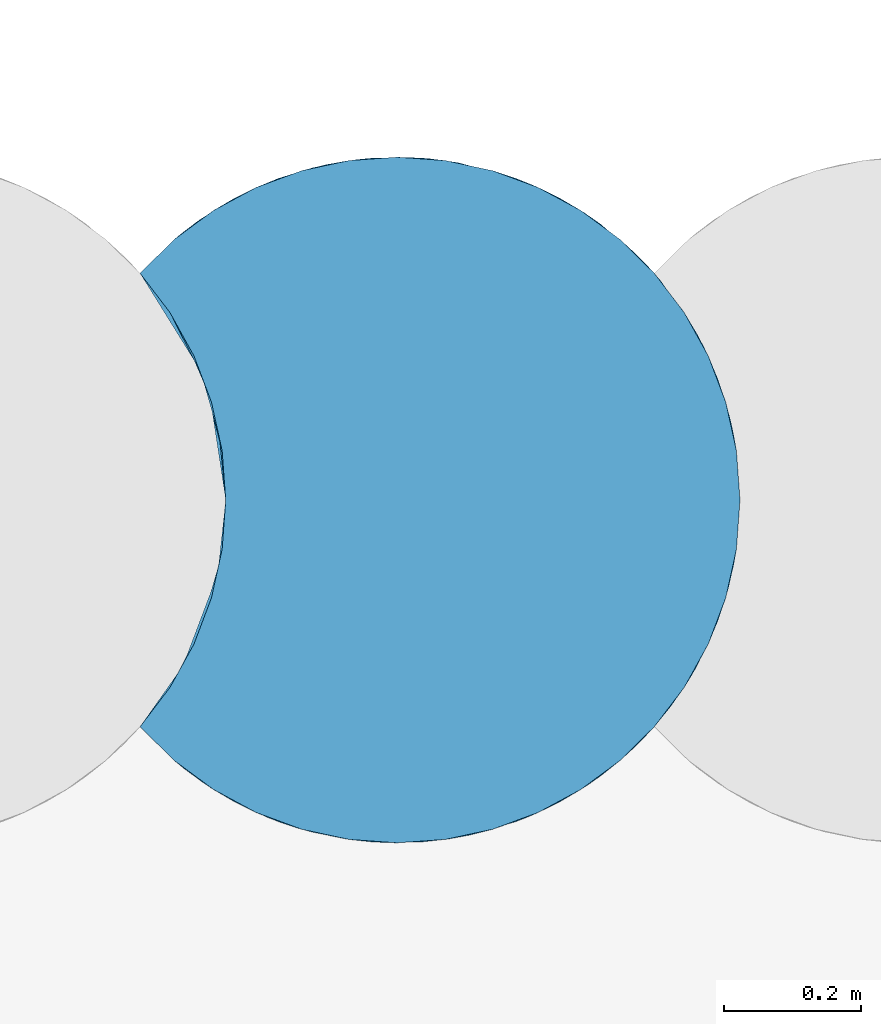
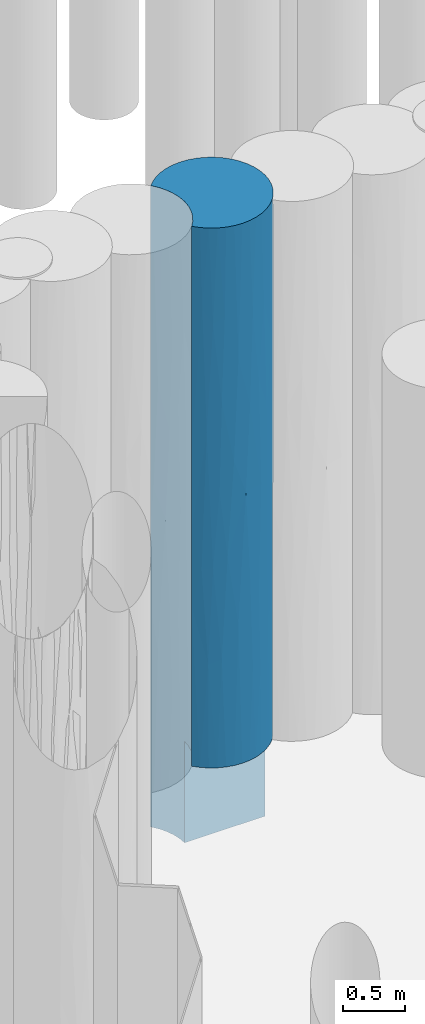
# One storey, part 83 of 104: 1 pile.
"""IFC2X3 building model written with IfcOpenShell, lengths in millimetres."""

from ifc_helpers import new_model, entity, si_unit, converted_unit, derived_unit, direction, frame, origin, place, context, subcontext, project, spatial, faceted_brep, source, transform, mapped, material, element, save


model = new_model("IFC2X3")

# Units and contexts
model_context = context("Model", 3, precision=0.01, world=origin(), true_north=direction((6.12303176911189e-17, 1.0)))
body_context = subcontext(model_context, "Body", "Model", "MODEL_VIEW")
ifc_project = project(units=[si_unit("LENGTHUNIT", "METRE", prefix="MILLI"), si_unit("AREAUNIT", "SQUARE_METRE", prefix="MILLI"), si_unit("VOLUMEUNIT", "CUBIC_METRE"), converted_unit("PLANEANGLEUNIT", "DEGREE", entity("IfcRatioMeasure", 0.0174532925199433), si_unit("PLANEANGLEUNIT", "RADIAN"), dimensions=[0, 0, 0, 0, 0, 0, 0]), si_unit("MASSUNIT", "GRAM", prefix="KILO"), derived_unit("MASSDENSITYUNIT", [(si_unit("MASSUNIT", "GRAM", prefix="KILO"), 1), (si_unit("LENGTHUNIT", "METRE"), -3)]), derived_unit("MOMENTOFINERTIAUNIT", [(si_unit("LENGTHUNIT", "METRE"), 4)]), si_unit("TIMEUNIT", "SECOND"), si_unit("FREQUENCYUNIT", "HERTZ"), si_unit("THERMODYNAMICTEMPERATUREUNIT", "DEGREE_CELSIUS"), derived_unit("THERMALTRANSMITTANCEUNIT", [(si_unit("MASSUNIT", "GRAM", prefix="KILO"), 1), (si_unit("THERMODYNAMICTEMPERATUREUNIT", "KELVIN"), -1), (si_unit("TIMEUNIT", "SECOND"), -3)]), derived_unit("VOLUMETRICFLOWRATEUNIT", [(si_unit("LENGTHUNIT", "METRE"), 3), (si_unit("TIMEUNIT", "SECOND"), -1)]), si_unit("ELECTRICCURRENTUNIT", "AMPERE"), si_unit("ELECTRICVOLTAGEUNIT", "VOLT"), si_unit("POWERUNIT", "WATT"), si_unit("FORCEUNIT", "NEWTON", prefix="KILO"), si_unit("ILLUMINANCEUNIT", "LUX"), si_unit("LUMINOUSFLUXUNIT", "LUMEN"), si_unit("LUMINOUSINTENSITYUNIT", "CANDELA"), derived_unit("USERDEFINED", [(si_unit("MASSUNIT", "GRAM", prefix="KILO"), -1), (si_unit("LENGTHUNIT", "METRE"), -2), (si_unit("TIMEUNIT", "SECOND"), 3), (si_unit("LUMINOUSFLUXUNIT", "LUMEN"), 1)]), derived_unit("LINEARVELOCITYUNIT", [(si_unit("LENGTHUNIT", "METRE"), 1), (si_unit("TIMEUNIT", "SECOND"), -1)]), si_unit("PRESSUREUNIT", "PASCAL"), derived_unit("USERDEFINED", [(si_unit("LENGTHUNIT", "METRE"), -2), (si_unit("MASSUNIT", "GRAM", prefix="KILO"), 1), (si_unit("TIMEUNIT", "SECOND"), -2)]), derived_unit("LINEARFORCEUNIT", [(si_unit("MASSUNIT", "GRAM", prefix="KILO"), 1), (si_unit("LENGTHUNIT", "METRE"), 1), (si_unit("TIMEUNIT", "SECOND"), -2), (si_unit("LENGTHUNIT", "METRE"), -1)]), derived_unit("PLANARFORCEUNIT", [(si_unit("MASSUNIT", "GRAM", prefix="KILO"), 1), (si_unit("LENGTHUNIT", "METRE"), 1), (si_unit("TIMEUNIT", "SECOND"), -2), (si_unit("LENGTHUNIT", "METRE"), -2)])], contexts=[model_context])

# Site, building, storey
site_placement = place(None, origin())
site = spatial("IfcSite", under=ifc_project, at=site_placement, Name="Theater aan de Parade", CompositionType="ELEMENT")
building_placement = place(site_placement, origin())
building = spatial("IfcBuilding", under=site, at=building_placement, Name="Theater aan de Parade", CompositionType="ELEMENT")
storey_placement = place(building_placement, frame((0.0, 0.0, -5520.0)))
storey = spatial("IfcBuildingStorey", under=building, at=storey_placement, Name="-2 kelder", CompositionType="ELEMENT", Elevation=-5520.0)

# Pile
ifc_material = material(Name="00_PBT_MAT_grout")
shared_shape = source(origin(), body_context, "Body", "Brep", [
    faceted_brep([(447.024567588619, 996.610134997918, 0.0), (516.050365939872, 981.753867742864, 0.0), (582.295809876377, 957.322481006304, 0.0), (644.440261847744, 923.802640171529, 0.0), (701.244632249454, 881.862011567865, 0.0), (751.564698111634, 832.344511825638, 0.0), (795.307447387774, 774.871898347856, 0.0), (830.3061049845, 711.705910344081, 0.0), (855.841245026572, 644.155075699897, 0.0), (871.379164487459, 573.629291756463, 0.0), (876.595272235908, 501.595272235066, 0.0), (126.595272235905, 501.595272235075, 0.0), (121.380912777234, 573.617282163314, 0.0), (105.846592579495, 644.137097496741, 0.0), (80.3163177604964, 711.683855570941, 0.0), (45.3225844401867, 774.848704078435, 0.0), (1.59527223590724, 832.314186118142, 0.0), (51.9353252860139, 881.852972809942, 0.0), (108.741467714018, 923.797047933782, 0.0), (170.888616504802, 957.319719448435, 0.0), (237.136331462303, 981.75275040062, 0.0), (306.163620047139, 996.609799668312, 0.0), (376.594352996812, 1001.59527223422, 0.0), (794.756123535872, 775.714776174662, 1228.81272915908), (549.604882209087, 970.708984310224, 4489.81932615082), (520.051793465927, 980.573587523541, 5382.91341902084), (613.960467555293, 941.660908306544, 5318.51941458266), (876.595272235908, 501.595272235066, 1000.0), (871.379164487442, 573.629291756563, 6320.0), (876.595272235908, 501.59527223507, 6320.0), (876.595272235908, 501.595272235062, 5539.2311470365), (876.595272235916, 501.59527223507, 4758.46227378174), (520.051793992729, 980.573587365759, 937.086578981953), (844.294832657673, 678.392108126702, 1164.3633246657), (271.387390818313, 990.401268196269, 1001.48399115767), (613.960468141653, 941.660907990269, 1001.48058281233), (465.503122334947, 993.627175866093, 3572.95728768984), (591.95749686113, 952.837016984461, 2592.25031757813), (425.191522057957, 999.228073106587, 2413.69991540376), (51.9353254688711, 881.85297296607, 6320.0), (108.741467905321, 923.797048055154, 6320.0), (62.3331531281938, 890.490271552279, 5148.84671821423), (727.290636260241, 857.983770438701, 1464.86322289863), (813.948631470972, 743.92157944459, 2176.75510940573), (411.897565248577, 1000.34746331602, 1347.03164863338), (170.419670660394, 957.107754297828, 3160.0), (89.8360826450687, 911.191618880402, 2088.29114741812), (79.5245862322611, 903.775589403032, 3056.90562258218), (844.294831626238, 678.39211085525, 4334.71686722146), (813.948631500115, 743.921579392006, 5244.04250825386), (856.701469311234, 641.230652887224, 5294.90075363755), (317.324708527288, 998.069843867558, 2005.67899400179), (139.222527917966, 941.65683639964, 5318.51289021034), (271.387391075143, 990.401268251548, 5318.5160089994), (203.580632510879, 970.707129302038, 4489.8213672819), (855.841245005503, 644.155075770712, 6320.0), (830.306104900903, 711.705910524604, 6320.0), (411.897565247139, 1000.34746331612, 4972.96835150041), (376.594352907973, 1001.59527223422, 6320.0), (447.024567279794, 996.610135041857, 6320.0), (876.595272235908, 501.595272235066, 2098.46227378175), (869.333230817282, 586.502893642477, 1549.23112851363), (646.439422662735, 922.52773057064, 4378.31323819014), (861.144910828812, 624.930781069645, 2647.6933898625), (139.222527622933, 941.656836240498, 1001.48711016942), (795.307447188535, 774.871898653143, 6320.0), (576.321270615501, 959.972328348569, 3449.19162586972), (751.585178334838, 832.325631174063, 6320.0), (727.290636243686, 857.983770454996, 5537.32646657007), (701.244631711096, 881.862012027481, 6320.0), (203.580632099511, 970.707129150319, 1830.17863376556), (644.44026119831, 923.80264058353, 6320.0), (341.290873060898, 1000.34731423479, 3160.0), (253.934917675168, 986.316261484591, 2717.65300360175), (650.019734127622, 920.21092368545, 1972.39054739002), (549.604882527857, 970.70898419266, 1830.18066998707), (62.3331529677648, 890.490271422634, 1171.15328050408), (876.595272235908, 501.595272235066, 3196.92454756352), (876.595272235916, 501.595272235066, 2561.5377059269), (793.00101597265, 778.373625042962, 4276.18344993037), (864.687323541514, 610.067155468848, 3612.80310461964), (727.290635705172, 857.983770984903, 4689.9541594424), (1.59527223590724, 832.314186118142, 5539.23141195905), (1.59527223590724, 832.314186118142, 4758.45763153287), (1.59527223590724, 832.314186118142, 780.768588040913), (1.59527223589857, 832.314186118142, 1561.53717608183), (582.295809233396, 957.32248129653, 6320.0), (516.050365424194, 981.753867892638, 6320.0), (1.59527223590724, 832.314186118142, 6320.0), (170.888616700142, 957.319719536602, 6320.0), (760.967406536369, 821.373417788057, 2912.00306888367), (306.163620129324, 996.609799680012, 6320.0), (237.136331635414, 981.752750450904, 6320.0), (317.324708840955, 998.069843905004, 4314.32100595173), (824.270181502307, 724.277053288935, 3295.17429052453), (740.362063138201, 844.631308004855, 3786.33735840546), (89.8360828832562, 911.191619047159, 4231.70885066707), (1.59527223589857, 832.314186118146, 2342.30657834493), (1.59527223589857, 832.314186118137, 3123.07435216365), (1.59527223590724, 832.314186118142, 3940.76599184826), (1.5952722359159, 832.314186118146, 4721.53800578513), (868.31868141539, 592.193775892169, 4573.56444361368), (673.583725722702, 903.836317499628, 3160.0), (876.595272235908, 501.595272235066, 4123.07541185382), (1.5952722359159, 832.314186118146, 3922.30672178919), (203.582286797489, 32.4828050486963, 2063.74645387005), (104.799222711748, 81.9205083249, 2017.24056259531), (170.888936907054, 45.8706803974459, 1000.0), (306.169463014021, 6.57991348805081, 1000.0), (237.139379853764, 21.4369086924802, 1000.0), (108.739323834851, 79.3948566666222, 1000.0), (844.298622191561, 324.808461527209, 1964.84509720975), (855.843884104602, 359.044340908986, 1000.0), (871.380005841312, 429.567032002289, 1000.0), (51.9315440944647, 121.340800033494, 1000.0), (249.149636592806, 18.1104121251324, 3064.60351294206), (341.298032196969, 2.84272352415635, 2389.43952600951), (481.811471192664, 12.7910665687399, 1910.77219920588), (447.035194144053, 6.58192150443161, 1000.0), (516.062532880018, 21.4402106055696, 1000.0), (795.307447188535, 228.318645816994, 6320.0), (804.969430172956, 243.727901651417, 5501.66350533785), (830.306104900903, 291.484633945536, 6320.0), (376.602802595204, 1.59527229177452, 1000.0), (727.301618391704, 145.217581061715, 3659.99144225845), (673.596082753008, 99.363350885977, 2270.79748972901), (774.493590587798, 198.813290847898, 2390.35009709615), (481.80003106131, 12.7886041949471, 5409.25641590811), (453.100427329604, 7.48297604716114, 4513.69340896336), (549.604883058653, 32.4815604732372, 4692.84905904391), (226.910865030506, 24.5265368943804, 5446.00106667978), (237.136331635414, 21.4377940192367, 6320.0), (170.888616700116, 45.8708249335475, 6320.0), (203.580632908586, 32.4834150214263, 4596.17974534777), (186.509828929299, 39.1371398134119, 3719.1308989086), (302.739707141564, 7.07999895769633, 3999.49399943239), (567.354968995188, 39.4148549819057, 1816.1274248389), (549.617476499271, 32.4862051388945, 2627.20563650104), (582.308728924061, 45.8738949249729, 1000.0), (613.960468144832, 61.5296364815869, 5409.25483365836), (139.222528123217, 61.5337079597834, 5366.36140196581), (94.9848091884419, 88.4420959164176, 4306.20718492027), (66.1639001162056, 109.635627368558, 5518.62855545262), (1.59527223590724, 170.876358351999, 3342.30506081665), (1.5952722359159, 170.876358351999, 4123.07341442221), (701.244631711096, 121.328532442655, 6320.0), (727.290636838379, 145.206774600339, 5009.81933080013), (751.585178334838, 170.864913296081, 6320.0), (51.9353254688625, 121.337571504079, 6320.0), (1.59527223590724, 170.876358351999, 6320.0), (1.59527223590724, 170.876358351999, 5539.23164639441), (108.741467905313, 79.3934964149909, 6320.0), (830.311221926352, 291.49568395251, 1000.0), (306.163620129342, 6.58074479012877, 6320.0), (868.398757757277, 411.432465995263, 5503.47129762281), (859.976701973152, 373.757901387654, 4296.85621176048), (376.594352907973, 1.5952722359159, 6320.0), (341.290874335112, 2.8432301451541, 4999.47557712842), (751.595272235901, 170.87635835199, 1000.0), (795.315189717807, 228.330509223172, 1000.0), (516.050365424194, 21.4366765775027, 6320.0), (447.024567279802, 6.58040942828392, 6320.0), (844.29862220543, 324.808461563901, 2985.23218810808), (453.112845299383, 7.48489892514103, 2806.34173780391), (1.59527223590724, 170.876358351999, 2561.5367072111), (1.59527223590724, 170.876358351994, 1780.7688531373), (1.59527223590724, 170.876358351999, 1000.0), (644.453065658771, 79.3960272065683, 1000.0), (701.256460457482, 121.33863144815, 1000.0), (644.440261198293, 79.3879038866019, 6320.0), (868.741967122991, 413.325058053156, 3421.75623803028), (411.907133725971, 2.84375851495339, 3659.99398159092), (801.333356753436, 237.781778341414, 3614.51908154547), (866.89834836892, 403.600917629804, 2475.03864258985), (139.221565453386, 61.5342272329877, 2966.67369440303), (855.841245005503, 359.035468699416, 6320.0), (844.294832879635, 324.798436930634, 5400.40783371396), (577.1715610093, 43.589647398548, 3660.04365239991), (656.87991123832, 87.5415062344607, 3205.14514333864), (651.229971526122, 83.7726041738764, 4395.20285150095), (582.295809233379, 45.868063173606, 6320.0), (813.94863232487, 259.26896656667, 4682.88089299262), (871.379164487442, 429.561252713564, 6320.0), (61.5885442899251, 113.303163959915, 2951.9221345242), (1.59527223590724, 170.876358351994, 3196.92458745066), (1.5952722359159, 170.876358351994, 4758.46229372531), (121.380912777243, 573.617282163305, 6320.0), (126.595272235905, 501.595272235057, 6320.0), (121.380912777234, 429.573262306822, 6320.0), (105.846592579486, 359.05344697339, 6320.0), (80.3163177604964, 291.506688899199, 6320.0), (45.3225844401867, 228.341840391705, 6320.0), (45.3225844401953, 774.848704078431, 6320.0), (80.3163177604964, 711.683855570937, 6320.0), (105.846592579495, 644.137097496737, 6320.0), (126.595272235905, 501.59527223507, 1000.0), (126.595272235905, 501.595272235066, 4758.46227344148), (126.595272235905, 501.595272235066, 5539.23114702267), (103.716989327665, 651.110713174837, 929.570302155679), (117.506504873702, 596.496071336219, 2931.36424013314), (119.581500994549, 585.049320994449, 1600.95905710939), (126.595272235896, 501.595272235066, 2098.46227344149), (63.9612327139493, 743.898835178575, 1002.25156593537), (57.034257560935, 756.001010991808, 3976.06843691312), (59.0094113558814, 752.629158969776, 4844.99935350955), (94.3024450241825, 678.371969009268, 5355.17937068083), (52.6084708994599, 763.344684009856, 1951.92213360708), (94.3024450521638, 678.371968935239, 1823.06883573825), (89.4529642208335, 690.705708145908, 3078.94407721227), (119.45154693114, 585.813396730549, 3842.56157073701), (94.3024444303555, 678.371970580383, 4334.81933337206), (116.899441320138, 599.584158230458, 4844.99935891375), (126.595272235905, 501.595272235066, 3196.92454688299), (126.595272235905, 501.595272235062, 4123.07541190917), (126.595272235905, 501.595272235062, 2561.53770595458), (114.888484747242, 394.032552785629, 5404.38906559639), (63.9612331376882, 259.291710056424, 5404.38906552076), (52.4390141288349, 239.570259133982, 2802.0358188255), (63.9612331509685, 259.291710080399, 1947.59403560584), (94.3024456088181, 324.81857700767, 2700.69910324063), (114.88848475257, 394.032552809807, 1947.59403553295), (80.3163177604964, 291.506688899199, 1000.0), (45.3225844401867, 228.341840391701, 1000.0), (119.327197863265, 416.652647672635, 4541.19743988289), (86.8326465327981, 306.194250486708, 3696.32218371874), (117.809113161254, 408.273450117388, 3449.75323103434), (105.846592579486, 359.05344697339, 1000.0), (121.380912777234, 429.573262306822, 1000.0), (94.3024455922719, 324.818576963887, 4691.94526432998), (54.0384103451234, 242.18755514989, 4333.70688615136)], [[[0, 1, 2, 3, 4, 5, 6, 7, 8, 9, 10, 11, 12, 13, 14, 15, 16, 17, 18, 19, 20, 21, 22]], [[7, 6, 23]], [[24, 25, 26]], [[10, 9, 27]], [[28, 29, 30, 31]], [[1, 32, 2]], [[33, 9, 8]], [[19, 34, 20]], [[3, 2, 35]], [[36, 37, 38]], [[39, 40, 41]], [[42, 43, 23]], [[23, 43, 33]], [[42, 5, 4]], [[32, 35, 2]], [[32, 0, 44]], [[45, 46, 47]], [[5, 42, 23]], [[8, 7, 33]], [[48, 49, 50]], [[51, 44, 34]], [[52, 53, 54]], [[55, 50, 56]], [[57, 58, 59]], [[60, 27, 61]], [[24, 26, 62]], [[56, 50, 49]], [[63, 33, 43]], [[64, 19, 18]], [[49, 65, 56]], [[66, 37, 36]], [[67, 68, 69]], [[34, 64, 70]], [[68, 26, 71]], [[72, 51, 73]], [[35, 74, 42]], [[74, 35, 75]], [[75, 35, 32]], [[68, 71, 69]], [[20, 34, 21]], [[4, 35, 42]], [[76, 18, 17]], [[63, 77, 78, 60]], [[31, 50, 28]], [[79, 49, 48]], [[33, 61, 9]], [[4, 3, 35]], [[64, 34, 19]], [[77, 63, 80]], [[49, 81, 68]], [[82, 41, 83]], [[76, 84, 85]], [[68, 65, 49]], [[26, 86, 71]], [[86, 26, 25]], [[86, 25, 87]], [[88, 39, 82]], [[17, 16, 84]], [[89, 52, 40]], [[25, 59, 87]], [[81, 49, 79]], [[42, 74, 90]], [[53, 58, 57]], [[91, 53, 92]], [[70, 64, 46]], [[36, 57, 24]], [[38, 44, 51]], [[53, 89, 92]], [[22, 21, 34]], [[52, 89, 53]], [[53, 93, 54]], [[22, 44, 0]], [[62, 26, 81]], [[94, 95, 79]], [[51, 34, 70]], [[22, 34, 44]], [[76, 17, 84]], [[76, 46, 64]], [[58, 53, 91]], [[93, 53, 57]], [[96, 52, 54]], [[41, 40, 52]], [[68, 67, 65]], [[26, 68, 81]], [[46, 85, 97, 98]], [[96, 99, 100, 83]], [[46, 98, 47]], [[96, 54, 45]], [[47, 99, 96]], [[45, 54, 93]], [[46, 45, 70]], [[48, 101, 80]], [[63, 60, 61]], [[63, 43, 94]], [[73, 70, 45]], [[38, 51, 72]], [[36, 93, 57]], [[93, 72, 73]], [[37, 74, 75]], [[90, 74, 102]], [[36, 38, 72]], [[75, 44, 38]], [[36, 72, 93]], [[36, 24, 66]], [[95, 62, 81]], [[66, 62, 102]], [[48, 94, 79]], [[90, 95, 94]], [[94, 48, 80]], [[90, 94, 43]], [[42, 90, 43]], [[95, 81, 79]], [[28, 50, 55]], [[101, 48, 50]], [[0, 32, 1]], [[44, 75, 32]], [[24, 57, 25]], [[59, 25, 57]], [[90, 102, 95]], [[62, 95, 102]], [[62, 66, 24]], [[102, 74, 37]], [[9, 61, 27]], [[63, 61, 33]], [[7, 23, 33]], [[5, 23, 6]], [[50, 31, 101]], [[80, 31, 103, 77]], [[80, 101, 31]], [[94, 80, 63]], [[38, 37, 75]], [[102, 37, 66]], [[46, 76, 85]], [[76, 64, 18]], [[41, 96, 83]], [[39, 41, 82]], [[96, 41, 52]], [[96, 45, 47]], [[47, 98, 104, 99]], [[70, 73, 51]], [[93, 73, 45]], [[105, 106, 107]], [[108, 105, 109]], [[106, 110, 107]], [[111, 112, 113]], [[114, 110, 106]], [[115, 105, 116]], [[117, 118, 119]], [[120, 121, 122]], [[123, 118, 117]], [[124, 125, 126]], [[127, 128, 129]], [[130, 131, 132]], [[116, 108, 123]], [[133, 134, 135]], [[136, 137, 117]], [[136, 117, 119]], [[108, 116, 105]], [[136, 119, 138]], [[139, 127, 129]], [[130, 140, 133]], [[141, 140, 142]], [[143, 141, 144]], [[145, 146, 147]], [[148, 149, 150]], [[142, 148, 150]], [[132, 151, 140]], [[132, 140, 130]], [[112, 111, 152]], [[130, 153, 131]], [[154, 155, 103]], [[127, 156, 157]], [[158, 159, 126]], [[127, 160, 161]], [[126, 111, 162]], [[163, 116, 117]], [[114, 164, 165, 166]], [[125, 167, 168]], [[145, 169, 139]], [[158, 126, 125]], [[170, 155, 162]], [[113, 27, 60, 78]], [[128, 135, 171]], [[105, 107, 109]], [[172, 126, 162]], [[111, 159, 152]], [[162, 111, 173]], [[126, 159, 111]], [[106, 105, 174]], [[140, 141, 133]], [[175, 122, 176]], [[177, 178, 179]], [[160, 127, 180]], [[157, 156, 153]], [[139, 180, 127]], [[180, 139, 169]], [[115, 174, 105]], [[178, 125, 124]], [[121, 146, 181]], [[146, 121, 147]], [[173, 113, 78]], [[124, 172, 181]], [[146, 139, 179]], [[176, 121, 181]], [[171, 163, 177]], [[154, 175, 176]], [[136, 167, 125]], [[154, 103, 31, 30]], [[158, 125, 168]], [[181, 146, 124]], [[30, 29, 182]], [[142, 151, 148]], [[142, 144, 141]], [[163, 117, 137]], [[123, 117, 116]], [[156, 127, 161]], [[157, 135, 128]], [[179, 139, 129]], [[145, 139, 146]], [[176, 181, 155]], [[182, 154, 30]], [[172, 155, 181]], [[170, 162, 173]], [[183, 143, 184, 164]], [[134, 141, 174]], [[177, 179, 129]], [[124, 146, 179]], [[171, 115, 116]], [[134, 174, 115]], [[177, 129, 128]], [[178, 137, 125]], [[177, 163, 137]], [[116, 163, 171]], [[157, 128, 127]], [[177, 128, 171]], [[106, 174, 183]], [[114, 106, 164]], [[113, 173, 111]], [[170, 78, 77, 103]], [[78, 170, 173]], [[103, 155, 170]], [[133, 157, 130]], [[153, 130, 157]], [[143, 183, 141]], [[106, 183, 164]], [[141, 183, 174]], [[167, 136, 138]], [[125, 137, 136]], [[122, 121, 176]], [[121, 120, 147]], [[135, 134, 115]], [[141, 134, 133]], [[175, 154, 182]], [[155, 154, 176]], [[142, 150, 185, 144]], [[151, 142, 140]], [[126, 172, 124]], [[155, 172, 162]], [[133, 135, 157]], [[115, 171, 135]], [[179, 178, 124]], [[137, 178, 177]], [[186, 187, 188, 189, 190, 191, 149, 148, 151, 132, 131, 153, 156, 161, 160, 180, 169, 145, 147, 120, 122, 175, 182, 29, 28, 55, 56, 65, 67, 69, 71, 86, 87, 59, 58, 91, 92, 89, 40, 39, 88, 192, 193, 194]], [[195, 12, 11]], [[186, 196, 197, 187]], [[14, 13, 198]], [[199, 200, 201]], [[15, 202, 16]], [[100, 203, 204]], [[205, 194, 193]], [[14, 202, 15]], [[198, 13, 12]], [[206, 207, 208]], [[209, 210, 208]], [[193, 192, 205]], [[204, 205, 192]], [[196, 186, 211]], [[198, 202, 14]], [[207, 202, 198]], [[209, 211, 210]], [[211, 205, 210]], [[212, 209, 199]], [[202, 85, 84, 16]], [[186, 194, 205]], [[192, 88, 82, 83, 100]], [[210, 205, 204]], [[98, 97, 85, 206]], [[205, 211, 186]], [[209, 212, 213, 196]], [[211, 209, 196]], [[208, 199, 209]], [[210, 204, 203]], [[195, 200, 198]], [[199, 208, 207]], [[199, 201, 214, 212]], [[203, 100, 99, 104, 98]], [[100, 204, 192]], [[203, 208, 210]], [[208, 203, 98]], [[207, 198, 200]], [[195, 198, 12]], [[207, 200, 199]], [[201, 200, 195]], [[85, 202, 206]], [[98, 206, 208]], [[207, 206, 202]], [[189, 215, 216, 190]], [[188, 187, 197]], [[165, 217, 218]], [[219, 220, 218]], [[221, 222, 218]], [[223, 215, 197]], [[216, 185, 150, 149]], [[219, 224, 225]], [[214, 220, 225]], [[189, 188, 215]], [[221, 218, 220, 226]], [[227, 220, 195]], [[191, 190, 216]], [[226, 220, 227]], [[215, 228, 216]], [[225, 223, 213]], [[220, 214, 201, 195]], [[184, 229, 217]], [[225, 213, 212, 214]], [[165, 222, 166]], [[219, 218, 217]], [[218, 222, 165]], [[191, 216, 149]], [[185, 216, 229]], [[228, 215, 223]], [[215, 188, 197]], [[223, 225, 224]], [[223, 197, 196, 213]], [[228, 223, 224]], [[220, 219, 225]], [[228, 224, 229]], [[217, 229, 224]], [[228, 229, 216]], [[229, 184, 143, 144, 185]], [[219, 217, 224]], [[217, 165, 164, 184]], [[158, 168, 167, 138, 119, 118, 123, 108, 109, 107, 110, 114, 166, 222, 221, 226, 227, 195, 27, 113, 112, 152, 159]], [[195, 11, 10, 27]]]),
])
pile_placement = place(storey_placement, frame((76423.4047277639, 20202.3807468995, -3840.0)))
element("IfcPile", 1, at=pile_placement, inside=storey, material=ifc_material, Name="17_PBT_SFO_grondkering_rond:Ø1000 (grondkering)", ObjectType="17_PBT_SFO_grondkering_rond:Ø1000 (grondkering)", PredefinedType="NOTDEFINED", context=body_context, shape_type="MappedRepresentation", body=[
    mapped(shared_shape, transform((0.0, 0.0, 0.0), scale=1.0)),
])

save(model, "model.ifc")
